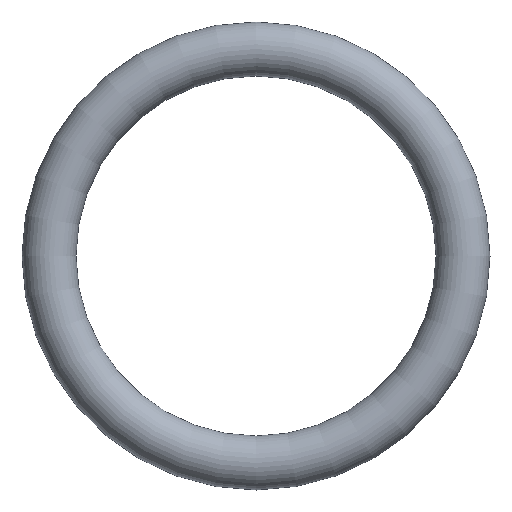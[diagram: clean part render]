
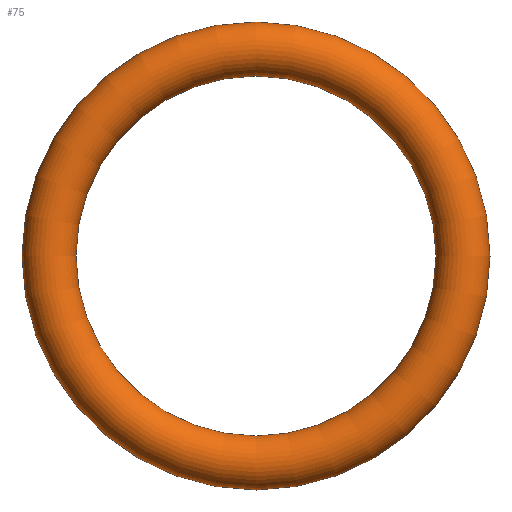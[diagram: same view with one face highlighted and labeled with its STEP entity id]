
A CAD part, front view. The second image highlights one B-rep face of the part: STEP entity #75.
In plain terms, the highlighted toroidal (fillet/blend) face has major radius 11.5 mm and minor radius 1.5 mm.
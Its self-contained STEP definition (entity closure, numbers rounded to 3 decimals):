
#75 = ADVANCED_FACE( '', ( #77 ), #78, .T. );
#77 = FACE_BOUND( '', #79, .T. );
#78 = TOROIDAL_SURFACE( '', #80, 11.5, 1.5 );
#79 = VERTEX_LOOP( '', #81 );
#80 = AXIS2_PLACEMENT_3D( '', #82, #83, #84 );
#81 = VERTEX_POINT( '', #85 );
#82 = CARTESIAN_POINT( '', ( 0., 0., 0. ) );
#83 = DIRECTION( '', ( 0., -1., 0. ) );
#84 = DIRECTION( '', ( 0., 0., -1. ) );
#85 = CARTESIAN_POINT( '', ( 0., 0., -13. ) );
